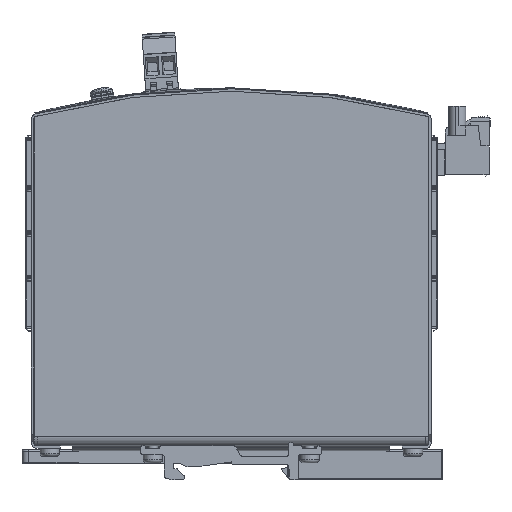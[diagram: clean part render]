
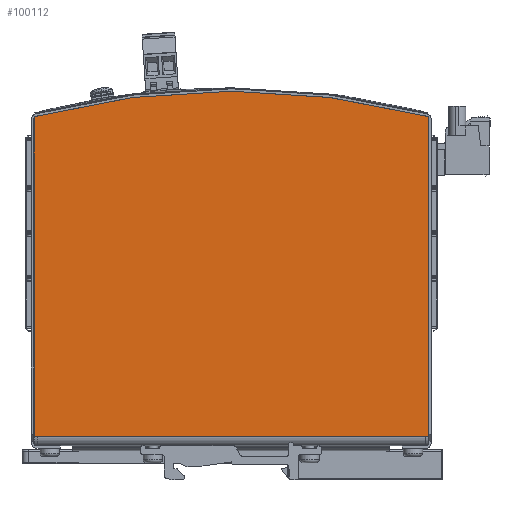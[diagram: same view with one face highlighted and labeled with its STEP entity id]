
A CAD part, left-side view. The second image highlights one B-rep face of the part: STEP entity #100112.
In plain terms, the highlighted planar face has unit normal (-1, 0, 0) as drawn and (1, 0, 0) by its records, which use the part's own axes.
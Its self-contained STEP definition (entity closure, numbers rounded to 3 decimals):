
#3404=PLANE('',#105787);
#7661=FACE_OUTER_BOUND('',#12916,.T.);
#12916=EDGE_LOOP('',(#70004,#70005,#70006,#70007,#70008,#70009,#70010,#70011));
#19169=LINE('',#137168,#31472);
#19170=LINE('',#137170,#31473);
#19171=LINE('',#137172,#31474);
#19172=LINE('',#137174,#31475);
#19173=LINE('',#137176,#31476);
#31472=VECTOR('',#112221,10.);
#31473=VECTOR('',#112222,10.);
#31474=VECTOR('',#112223,10.);
#31475=VECTOR('',#112224,10.);
#31476=VECTOR('',#112225,10.);
#43756=CIRCLE('',#105783,0.5);
#43757=CIRCLE('',#105785,240.);
#43759=CIRCLE('',#105788,0.5);
#45190=VERTEX_POINT('',#137155);
#45191=VERTEX_POINT('',#137157);
#45192=VERTEX_POINT('',#137161);
#45194=VERTEX_POINT('',#137167);
#45195=VERTEX_POINT('',#137169);
#45196=VERTEX_POINT('',#137171);
#45197=VERTEX_POINT('',#137173);
#45198=VERTEX_POINT('',#137175);
#55043=EDGE_CURVE('',#45190,#45191,#43756,.T.);
#55045=EDGE_CURVE('',#45192,#45191,#43757,.T.);
#55048=EDGE_CURVE('',#45194,#45190,#19169,.T.);
#55049=EDGE_CURVE('',#45194,#45195,#19170,.T.);
#55050=EDGE_CURVE('',#45195,#45196,#19171,.T.);
#55051=EDGE_CURVE('',#45196,#45197,#19172,.T.);
#55052=EDGE_CURVE('',#45198,#45197,#19173,.T.);
#55053=EDGE_CURVE('',#45192,#45198,#43759,.T.);
#70004=ORIENTED_EDGE('',*,*,#55043,.F.);
#70005=ORIENTED_EDGE('',*,*,#55048,.F.);
#70006=ORIENTED_EDGE('',*,*,#55049,.T.);
#70007=ORIENTED_EDGE('',*,*,#55050,.T.);
#70008=ORIENTED_EDGE('',*,*,#55051,.T.);
#70009=ORIENTED_EDGE('',*,*,#55052,.F.);
#70010=ORIENTED_EDGE('',*,*,#55053,.F.);
#70011=ORIENTED_EDGE('',*,*,#55045,.T.);
#100112=ADVANCED_FACE('',(#7661),#3404,.T.);
#105783=AXIS2_PLACEMENT_3D('',#137158,#112209,#112210);
#105785=AXIS2_PLACEMENT_3D('',#137162,#112214,#112215);
#105787=AXIS2_PLACEMENT_3D('',#137166,#112219,#112220);
#105788=AXIS2_PLACEMENT_3D('',#137177,#112226,#112227);
#112209=DIRECTION('center_axis',(-1.,0.,0.));
#112210=DIRECTION('ref_axis',(0.,-0.611,-0.792));
#112214=DIRECTION('center_axis',(1.,0.,0.));
#112215=DIRECTION('ref_axis',(0.,-0.967,0.255));
#112219=DIRECTION('center_axis',(1.,0.,0.));
#112220=DIRECTION('ref_axis',(0.,0.,
1.));
#112221=DIRECTION('',(0.,-1.,0.));
#112222=DIRECTION('',(0.,0.,1.));
#112223=DIRECTION('',(0.,0.,1.));
#112224=DIRECTION('',(0.,0.,1.));
#112225=DIRECTION('',(0.,1.,0.));
#112226=DIRECTION('center_axis',(-1.,0.,0.));
#112227=DIRECTION('ref_axis',(0.,-0.611,0.792));
#137155=CARTESIAN_POINT('',(55.,-101.693,-61.15));
#137157=CARTESIAN_POINT('',(55.,-102.177,-60.777));
#137158=CARTESIAN_POINT('Origin',(55.,-101.693,-60.65));
#137161=CARTESIAN_POINT('',(55.,-102.177,60.777));
#137162=CARTESIAN_POINT('Origin',(55.,130.,0.));
#137166=CARTESIAN_POINT('Origin',(55.,-53.304,0.));
#137167=CARTESIAN_POINT('',(55.,-3.,-61.15));
#137168=CARTESIAN_POINT('',(55.,-3.,-61.15));
#137169=CARTESIAN_POINT('',(55.,-3.,-60.15));
#137170=CARTESIAN_POINT('',(55.,-3.,0.));
#137171=CARTESIAN_POINT('',(55.,-3.,60.15));
#137172=CARTESIAN_POINT('',(55.,-3.,0.));
#137173=CARTESIAN_POINT('',(55.,-3.,61.15));
#137174=CARTESIAN_POINT('',(55.,-3.,0.));
#137175=CARTESIAN_POINT('',(55.,-101.693,61.15));
#137176=CARTESIAN_POINT('',(55.,33.393,61.15));
#137177=CARTESIAN_POINT('Origin',(55.,-101.693,60.65));
